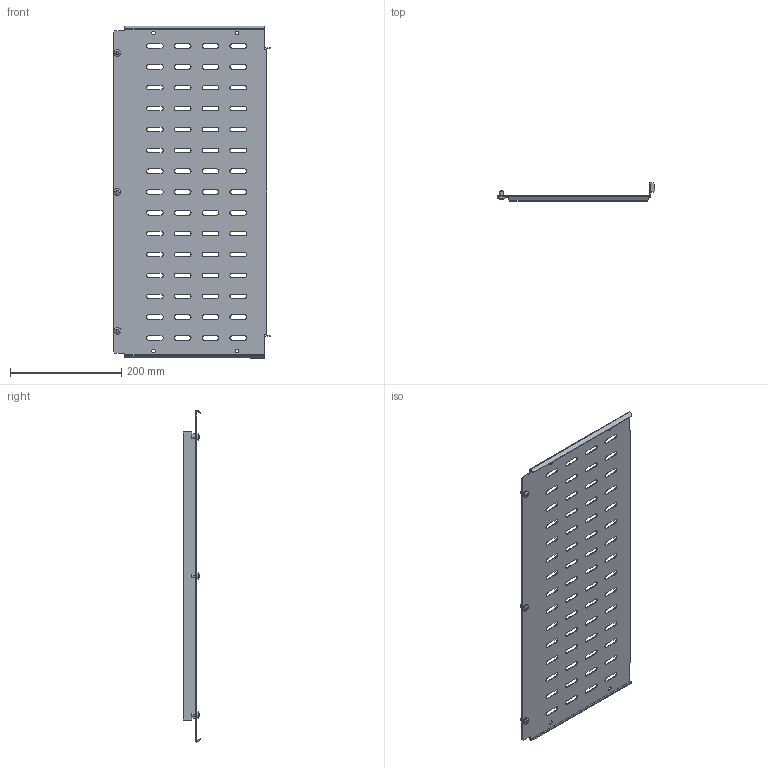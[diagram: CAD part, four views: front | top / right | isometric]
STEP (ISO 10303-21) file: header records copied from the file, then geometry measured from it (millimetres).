
FILE_DESCRIPTION (( 'STEP AP214' ), '1' );
FILE_NAME ('FO-00-SWFÑ-060 Ïåðåãîðîäêà ñåêöèîíèðîâàíèÿ çàäíÿÿ äëÿ âåðòèêàëüíîãî êàáåëüíîãî îòñåêà âûñîòà 600 ìì â øêàô øèðèíîé 600 ìì.STEP', '2025-08-13T13:03:40', ( '' ), ( '' ), 'SwSTEP 2.0', 'SolidWorks 2023', '' );
FILE_SCHEMA (( 'AUTOMOTIVE_DESIGN' ));
Length unit declared in the file: millimetre
Products named in the file (1): FO-00-SWFС-060 Перегородка секционирования задняя для вертикального кабельного отсека высота 600 мм в шкаф шириной 600 мм
Bounding box: 283.5 x 31.66 x 597.2 mm (x, y, z)
Volume: 251193.3 mm3; surface area: 342808.8 mm2
Topology: 1 solids, 1 shells, 395 faces, 1143 edges, 756 vertices
Faces by surface type: cylinder 191, plane 186, sphere 6, cone 6, torus 6
Entity records: 13432 total; most frequent: CARTESIAN_POINT 2496, ORIENTED_EDGE 2286, DIRECTION 2245, EDGE_CURVE 1143, AXIS2_PLACEMENT_3D 757, VERTEX_POINT 756, LINE 731, VECTOR 731
